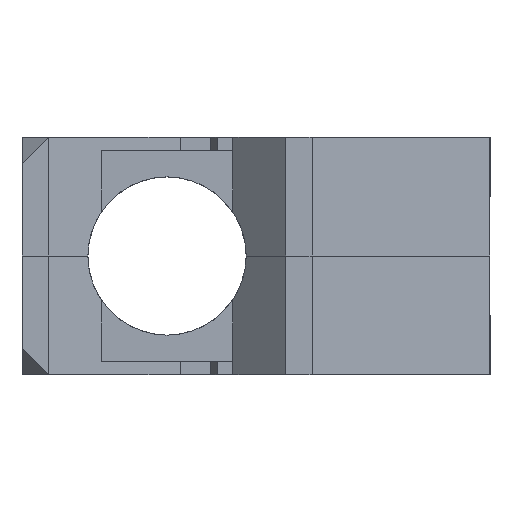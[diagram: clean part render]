
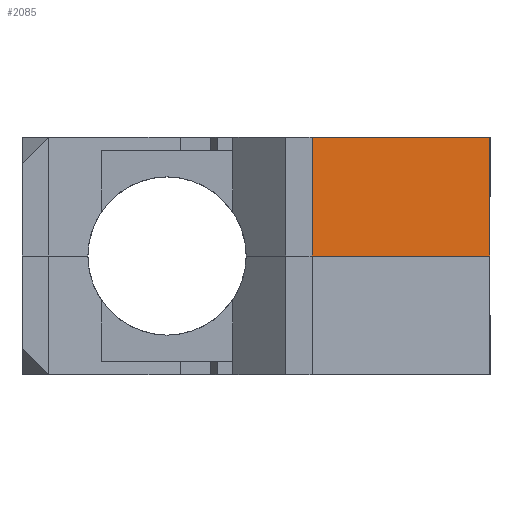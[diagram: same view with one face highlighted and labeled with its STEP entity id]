
A CAD part, left-side view. The second image highlights one B-rep face of the part: STEP entity #2085.
In plain terms, the highlighted planar face has unit normal (-0.707, -0.707, 0).
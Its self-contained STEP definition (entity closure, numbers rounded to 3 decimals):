
#350 = CARTESIAN_POINT ( 'NONE',  ( -15.5, -24.5, -8. ) ) ;
#536 = DIRECTION ( 'NONE',  ( 0., 0., 1. ) ) ;
#603 = VERTEX_POINT ( 'NONE', #4590 ) ;
#920 = CARTESIAN_POINT ( 'NONE',  ( -20., -20., 0. ) ) ;
#1179 = VERTEX_POINT ( 'NONE', #4163 ) ;
#1237 = LINE ( 'NONE', #6221, #5650 ) ;
#1410 = PLANE ( 'NONE',  #6812 ) ;
#1851 = DIRECTION ( 'NONE',  ( 0.707, -0.707, 0. ) ) ;
#1916 = CARTESIAN_POINT ( 'NONE',  ( -29., -11., 0. ) ) ;
#1986 = CARTESIAN_POINT ( 'NONE',  ( -20., -20., -8. ) ) ;
#1991 = VECTOR ( 'NONE', #7730, 1000. ) ;
#2085 = ADVANCED_FACE ( 'NONE', ( #2107 ), #1410, .T. ) ;
#2107 = FACE_OUTER_BOUND ( 'NONE', #5926, .T. ) ;
#2217 = VECTOR ( 'NONE', #536, 1000. ) ;
#2396 = VECTOR ( 'NONE', #7825, 1000. ) ;
#2430 = EDGE_CURVE ( 'NONE', #4074, #603, #1237, .T. ) ;
#2726 = EDGE_CURVE ( 'NONE', #4661, #4074, #6134, .T. ) ;
#2805 = LINE ( 'NONE', #350, #2396 ) ;
#3385 = CARTESIAN_POINT ( 'NONE',  ( -29., -11., 9. ) ) ;
#4074 = VERTEX_POINT ( 'NONE', #3385 ) ;
#4163 = CARTESIAN_POINT ( 'NONE',  ( -15.5, -24.5, 0. ) ) ;
#4405 = ORIENTED_EDGE ( 'NONE', *, *, #2726, .F. ) ;
#4478 = DIRECTION ( 'NONE',  ( 0.707, -0.707, 0. ) ) ;
#4590 = CARTESIAN_POINT ( 'NONE',  ( -15.5, -24.5, 9. ) ) ;
#4661 = VERTEX_POINT ( 'NONE', #1916 ) ;
#5151 = EDGE_CURVE ( 'NONE', #1179, #603, #2805, .T. ) ;
#5252 = LINE ( 'NONE', #920, #1991 ) ;
#5431 = EDGE_CURVE ( 'NONE', #1179, #4661, #5252, .T. ) ;
#5650 = VECTOR ( 'NONE', #1851, 1000. ) ;
#5926 = EDGE_LOOP ( 'NONE', ( #7182, #5997, #6305, #4405 ) ) ;
#5997 = ORIENTED_EDGE ( 'NONE', *, *, #5151, .T. ) ;
#6134 = LINE ( 'NONE', #6701, #2217 ) ;
#6221 = CARTESIAN_POINT ( 'NONE',  ( -20., -20., 9. ) ) ;
#6305 = ORIENTED_EDGE ( 'NONE', *, *, #2430, .F. ) ;
#6701 = CARTESIAN_POINT ( 'NONE',  ( -29., -11., -8. ) ) ;
#6812 = AXIS2_PLACEMENT_3D ( 'NONE', #1986, #7575, #4478 ) ;
#7182 = ORIENTED_EDGE ( 'NONE', *, *, #5431, .F. ) ;
#7575 = DIRECTION ( 'NONE',  ( -0.707, -0.707, 0. ) ) ;
#7730 = DIRECTION ( 'NONE',  ( -0.707, 0.707, 0. ) ) ;
#7825 = DIRECTION ( 'NONE',  ( 0., 0., 1. ) ) ;
